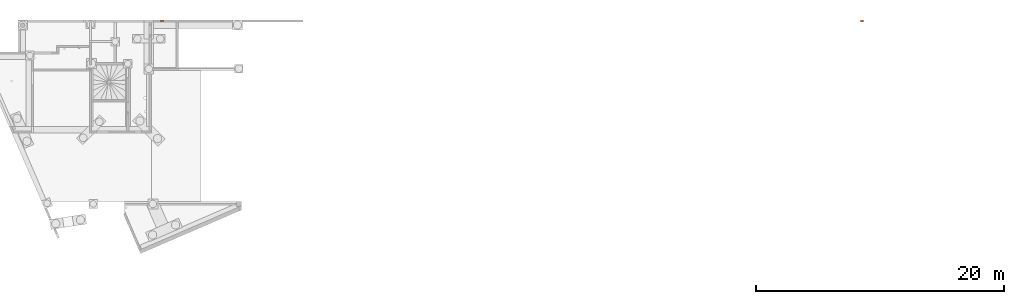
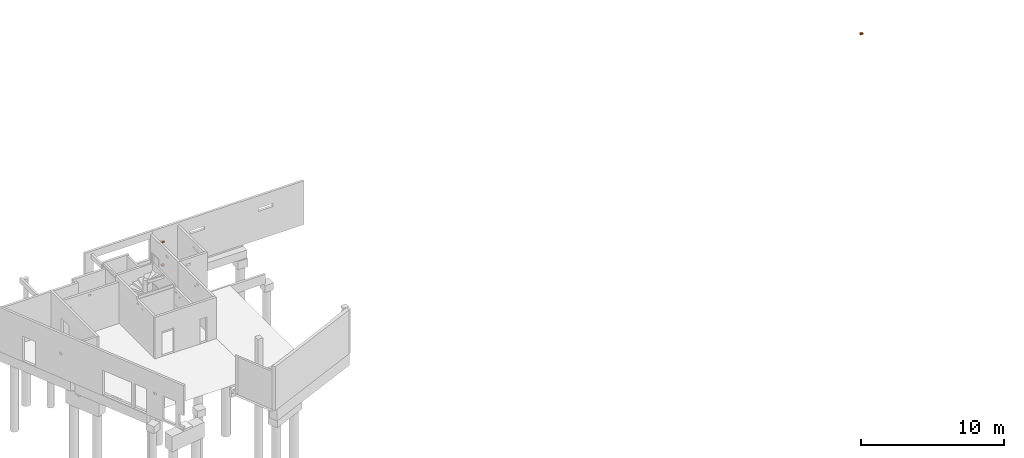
# One storey, part 29 of 29: 3 proxies.
"""IFC2X3 building model written with IfcOpenShell, lengths in centimetres."""

from ifc_helpers import new_model, entity, si_unit, converted_unit, derived_unit, direction, frame, frame_2d, origin, place, context, subcontext, project, spatial, rectangle, extrude, source, transform, mapped, material, type_object, type_shapes, element, save


model = new_model("IFC2X3")

# Units and contexts
model_context = context("Model", 3, precision=0.001, world=origin(), true_north=direction((6.12303176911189e-17, 1.0)))
body_context = subcontext(model_context, "Body", "Model", "MODEL_VIEW")
ifc_project = project(units=[si_unit("LENGTHUNIT", "METRE", prefix="CENTI"), si_unit("AREAUNIT", "SQUARE_METRE"), si_unit("VOLUMEUNIT", "CUBIC_METRE"), converted_unit("PLANEANGLEUNIT", "DEGREE", entity("IfcRatioMeasure", 0.0174532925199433), si_unit("PLANEANGLEUNIT", "RADIAN"), dimensions=[0, 0, 0, 0, 0, 0, 0]), si_unit("MASSUNIT", "GRAM", prefix="KILO"), derived_unit("MASSDENSITYUNIT", [(si_unit("MASSUNIT", "GRAM", prefix="KILO"), 1), (si_unit("LENGTHUNIT", "METRE"), -3)]), si_unit("TIMEUNIT", "SECOND"), si_unit("FREQUENCYUNIT", "HERTZ"), si_unit("THERMODYNAMICTEMPERATUREUNIT", "DEGREE_CELSIUS"), derived_unit("THERMALTRANSMITTANCEUNIT", [(si_unit("MASSUNIT", "GRAM", prefix="KILO"), 1), (si_unit("THERMODYNAMICTEMPERATUREUNIT", "KELVIN"), -1), (si_unit("TIMEUNIT", "SECOND"), -3)]), derived_unit("VOLUMETRICFLOWRATEUNIT", [(si_unit("LENGTHUNIT", "METRE"), 3), (si_unit("TIMEUNIT", "SECOND"), -1)]), si_unit("ELECTRICCURRENTUNIT", "AMPERE"), si_unit("ELECTRICVOLTAGEUNIT", "VOLT"), si_unit("POWERUNIT", "WATT"), si_unit("FORCEUNIT", "NEWTON"), si_unit("ILLUMINANCEUNIT", "LUX"), si_unit("LUMINOUSFLUXUNIT", "LUMEN"), si_unit("LUMINOUSINTENSITYUNIT", "CANDELA"), derived_unit("USERDEFINED", [(si_unit("MASSUNIT", "GRAM", prefix="KILO"), -1), (si_unit("LENGTHUNIT", "METRE"), -2), (si_unit("TIMEUNIT", "SECOND"), 3), (si_unit("LUMINOUSFLUXUNIT", "LUMEN"), 1)]), derived_unit("LINEARVELOCITYUNIT", [(si_unit("LENGTHUNIT", "METRE"), 1), (si_unit("TIMEUNIT", "SECOND"), -1)]), si_unit("PRESSUREUNIT", "PASCAL"), derived_unit("USERDEFINED", [(si_unit("LENGTHUNIT", "METRE"), -2), (si_unit("MASSUNIT", "GRAM", prefix="KILO"), 1), (si_unit("TIMEUNIT", "SECOND"), -2)])], contexts=[model_context])

# Site, building, storey
site_placement = place(None, origin())
site = spatial("IfcSite", under=ifc_project, at=site_placement, Name="Default", CompositionType="ELEMENT")
building_placement = place(site_placement, origin())
building = spatial("IfcBuilding", under=site, at=building_placement, Name="CAGE 03", CompositionType="ELEMENT")
storey_placement = place(building_placement, frame((0.0, 0.0, -34.0)))
storey = spatial("IfcBuildingStorey", under=building, at=storey_placement, Name="+3.66", CompositionType="ELEMENT", Elevation=-34.0000000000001)

# Proxies
ifc_material = material(Name="BBGO_Résa")
building_element_proxy_type_1 = type_object("IfcBuildingElementProxyType", Name="Réservation", PredefinedType="NOTDEFINED", material=ifc_material)
shared_shape_1 = source(origin(), body_context, "Body", "SweptSolid", [
    extrude(rectangle(XDim=17.9999999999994, YDim=22.0000000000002, at=frame_2d((4.33431068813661e-13, -4.33431068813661e-13), x_axis=(1.0, 0.0))), frame((4238.36582014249, 5284.66066607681, 8.0), z_axis=(0.0, 0.0, 1.0), x_axis=(0.0, 1.0, 0.0)), (0.0, 0.0, 1.0), 12.0),
])
type_shapes(building_element_proxy_type_1, [shared_shape_1])
proxy_1_placement = place(storey_placement, frame((0.0, 0.0, 34.0)))
element("IfcBuildingElementProxy", 1, at=proxy_1_placement, inside=storey, type_object=building_element_proxy_type_1, material=ifc_material, Name="BBGO-Résa rect et circ:Réservation", ObjectType="Réservation", context=body_context, shape_type="MappedRepresentation", body=[
    mapped(shared_shape_1, transform((0.0, 0.0, 0.0), scale=1.0)),
])
building_element_proxy_type_2 = type_object("IfcBuildingElementProxyType", Name="Réservation", PredefinedType="NOTDEFINED", material=ifc_material)
shared_shape_2 = source(origin(), body_context, "Body", "SweptSolid", [
    extrude(rectangle(XDim=17.9999999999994, YDim=22.0000000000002, at=frame_2d((4.33431068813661e-13, -4.33431068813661e-13), x_axis=(1.0, 0.0))), frame((4238.36582014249, 5284.66066607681, 208.0), z_axis=(0.0, 0.0, 1.0), x_axis=(0.0, 1.0, 0.0)), (0.0, 0.0, 1.0), 12.0),
])
type_shapes(building_element_proxy_type_2, [shared_shape_2])
proxy_2_placement = place(storey_placement, frame((0.0, 0.0, 34.0)))
element("IfcBuildingElementProxy", 2, at=proxy_2_placement, inside=storey, type_object=building_element_proxy_type_2, material=ifc_material, Name="BBGO-Résa rect et circ:Réservation", ObjectType="Réservation", context=body_context, shape_type="MappedRepresentation", body=[
    mapped(shared_shape_2, transform((0.0, 0.0, 0.0), scale=1.0)),
])
building_element_proxy_type_3 = type_object("IfcBuildingElementProxyType", Name="Réservation", PredefinedType="NOTDEFINED", material=ifc_material)
shared_shape_3 = source(origin(), body_context, "Body", "SweptSolid", [
    extrude(rectangle(XDim=17.9999999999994, YDim=22.0000000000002, at=frame_2d((4.33431068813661e-13, 0.0), x_axis=(1.0, 0.0))), frame((9878.36582014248, 5284.66066607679, 8.0), z_axis=(0.0, 0.0, 1.0), x_axis=(0.0, 1.0, 0.0)), (0.0, 0.0, 1.0), 12.0),
])
type_shapes(building_element_proxy_type_3, [shared_shape_3])
proxy_3_placement = place(storey_placement, frame((0.0, 0.0, 34.0)))
element("IfcBuildingElementProxy", 3, at=proxy_3_placement, inside=storey, type_object=building_element_proxy_type_3, material=ifc_material, Name="BBGO-Résa rect et circ:Réservation", ObjectType="Réservation", context=body_context, shape_type="MappedRepresentation", body=[
    mapped(shared_shape_3, transform((0.0, 0.0, 0.0), scale=1.0)),
])

save(model, "model.ifc")
